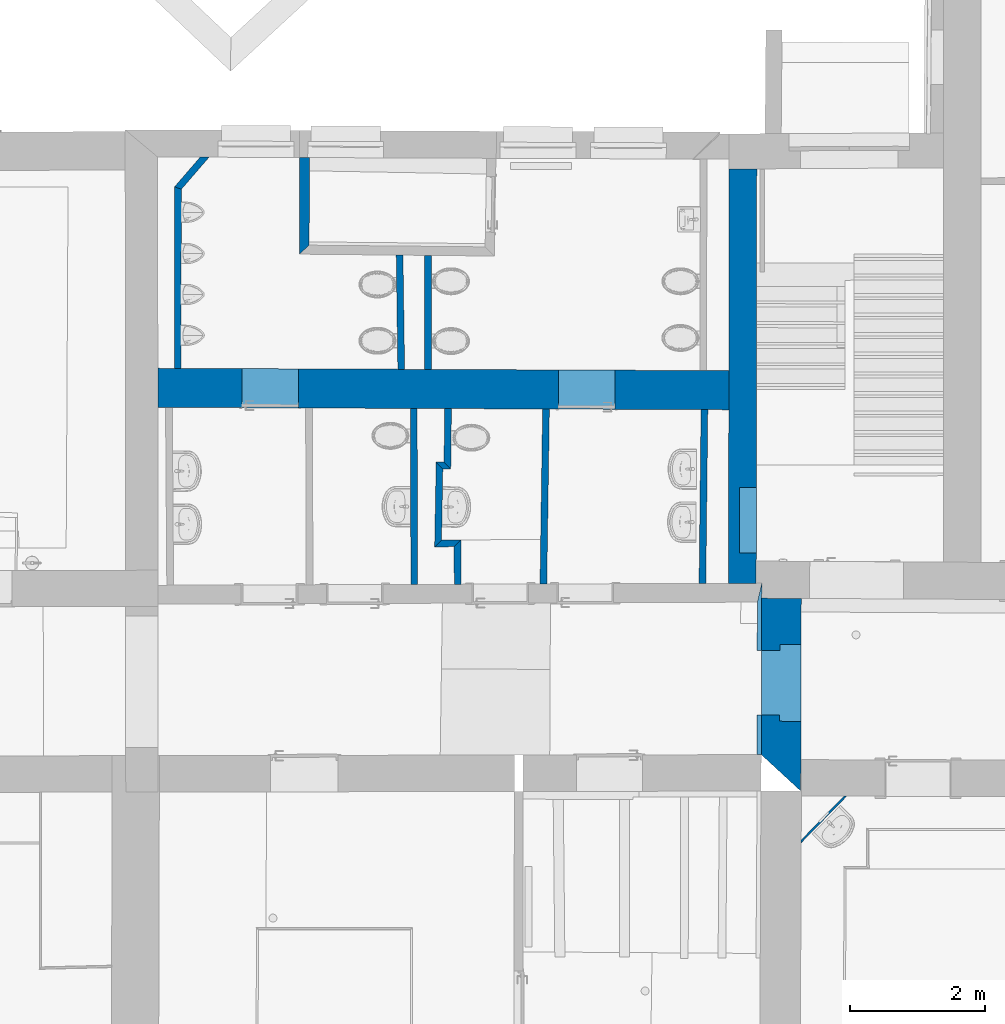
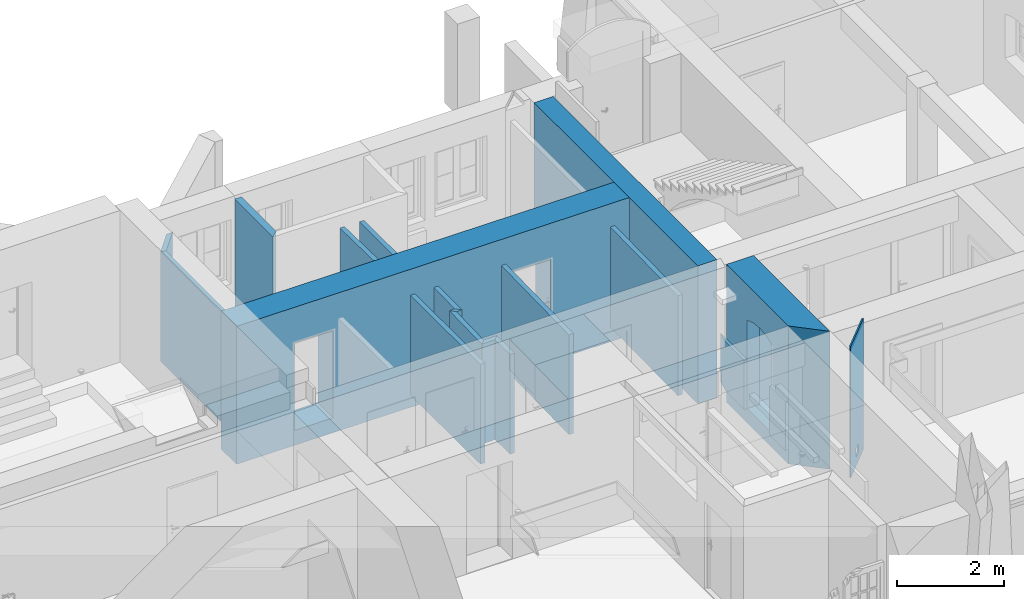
# One storey, part 49 of 196: 19 walls, 5 openings.
"""IFC2X3 building model written with IfcOpenShell, lengths in metres."""

from ifc_helpers import new_model, entity, si_unit, converted_unit, derived_unit, money_unit, direction, frame, origin_with_axes, origin_2d_with_axis, place, context, subcontext, project, spatial, polyline, rectangle, outline, extrude, material, layer, layer_set, layer_usage, type_object, element, save


model = new_model("IFC2X3")

# Units and contexts
model_context = context("Model", 3, precision=1e-05, world=origin_with_axes(), true_north=direction((0.0, 1.0)))
body_context = subcontext(model_context, "Body", "Model", "MODEL_VIEW")
ifc_project = project(units=[si_unit("LENGTHUNIT", "METRE"), si_unit("AREAUNIT", "SQUARE_METRE"), si_unit("VOLUMEUNIT", "CUBIC_METRE"), converted_unit("PLANEANGLEUNIT", "DEGREE", entity("IfcPlaneAngleMeasure", 0.0174532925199), si_unit("PLANEANGLEUNIT", "RADIAN"), dimensions=[0, 0, 0, 0, 0, 0, 0]), money_unit("EUR"), converted_unit("TIMEUNIT", "Year", entity("IfcTimeMeasure", 31556926.0), si_unit("TIMEUNIT", "SECOND"), dimensions=[0, 0, 1, 0, 0, 0, 0]), si_unit("MASSUNIT", "GRAM", prefix="KILO"), si_unit("THERMODYNAMICTEMPERATUREUNIT", "DEGREE_CELSIUS"), si_unit("LUMINOUSINTENSITYUNIT", "LUMEN"), si_unit("ENERGYUNIT", "JOULE", prefix="MEGA"), derived_unit("THERMALCONDUCTANCEUNIT", [(si_unit("POWERUNIT", "WATT"), 1), (si_unit("LENGTHUNIT", "METRE"), -1), (si_unit("THERMODYNAMICTEMPERATUREUNIT", "KELVIN"), -1)]), derived_unit("SPECIFICHEATCAPACITYUNIT", [(si_unit("ENERGYUNIT", "JOULE"), 1), (si_unit("MASSUNIT", "GRAM", prefix="KILO"), -1), (si_unit("THERMODYNAMICTEMPERATUREUNIT", "KELVIN"), -1)]), derived_unit("MASSDENSITYUNIT", [(si_unit("MASSUNIT", "GRAM", prefix="KILO"), 1), (si_unit("VOLUMEUNIT", "CUBIC_METRE"), -1)])], contexts=[model_context])

# Site, building, storey
site_placement = place(None, origin_with_axes())
site = spatial("IfcSite", under=ifc_project, at=site_placement, Name="Gelände", CompositionType="ELEMENT")
building_placement = place(site_placement, origin_with_axes())
building = spatial("IfcBuilding", under=site, at=building_placement, Name="Gebäude", CompositionType="ELEMENT")
storey_placement = place(building_placement, frame((0.0, 0.0, -3.0), z_axis=(0.0, 0.0, 1.0), x_axis=(1.0, 0.0, 0.0)))
storey = spatial("IfcBuildingStorey", under=building, at=storey_placement, Name="KELLERGESCHOSS", CompositionType="ELEMENT", Elevation=-3.0)

# Wall, opening
ifc_material_1 = material(Name="43_Gipskarton")
ifc_layer_1 = layer(ifc_material_1, 0.03, ventilated="UNKNOWN")
ifc_layer_set_1 = layer_set([ifc_layer_1], Name="43_Gipskarton 0.03")
ifc_layer_usage_1 = layer_usage(ifc_layer_set_1, "AXIS2", "NEGATIVE", 0.03)
wall_type_1 = type_object("IfcWallType", Name="43_Gipskarton 30", PredefinedType="ELEMENTEDWALL")
wall_1_placement = place(storey_placement, frame((21.9579376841, 15.0450863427, -0.1), z_axis=(0.0, 0.0, 1.0), x_axis=(0.698403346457, 0.715704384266, 0.0)))
wall_1 = element("IfcWallStandardCase", 1, at=wall_1_placement, inside=storey, type_object=wall_type_1, material=ifc_layer_usage_1, Name="Wand-032", ObjectType="ELEMENTEDWALL", context=body_context, shape_type="SweptSolid", body=[
    extrude(outline(polyline([(0.862844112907, 0.0), (1.82884582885, 0.0), (1.79963821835, 0.03), (0.893848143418, 0.03), (0.862844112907, 0.0)])), origin_with_axes(), (0.0, 0.0, 1.0), 3.0),
])
opening_1_placement = place(wall_1_placement, frame((1.36993878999, 0.0, 0.200269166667), z_axis=(0.0, 0.0, 1.0), x_axis=(1.0, 0.0, 0.0)))
element("IfcOpeningElement", 2, at=opening_1_placement, cuts=wall_1, Name="Tür-022", context=body_context, shape_type="SweptSolid", body=[
    extrude(rectangle(XDim=0.202513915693, YDim=0.194955, at=origin_2d_with_axis()), frame((0.0, -0.03, 0.0974775), z_axis=(0.0, 1.0, 0.0), x_axis=(-1.0, 0.0, 0.0)), (0.0, 0.0, 1.0), 0.09),
])

# Walls
ifc_layer_2 = layer(ifc_material_1, 0.1, ventilated="UNKNOWN")
ifc_layer_set_2 = layer_set([ifc_layer_2], Name="43_Gipskarton 0.1")
ifc_layer_usage_2 = layer_usage(ifc_layer_set_2, "AXIS2", "NEGATIVE", 0.0)
wall_type_2 = type_object("IfcWallType", Name="43_Gipskarton 100", PredefinedType="ELEMENTEDWALL")
wall_2_placement = place(storey_placement, frame((17.2299867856, 20.1492286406, -0.08), z_axis=(0.0, 0.0, 1.0), x_axis=(0.999833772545, 0.0182325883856, 0.0)))
element("IfcWallStandardCase", 3, at=wall_2_placement, inside=storey, type_object=wall_type_2, material=ifc_layer_usage_2, Name="Wand-038", ObjectType="ELEMENTEDWALL", context=body_context, shape_type="SweptSolid", body=[
    extrude(outline(polyline([(-0.103698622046, -0.1), (0.184411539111, -0.1), (0.285624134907, 0.0), (0.0, 0.0), (-0.103698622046, -0.1)])), origin_with_axes(), (0.0, 0.0, 1.0), 2.28),
])
ifc_layer_usage_3 = layer_usage(ifc_layer_set_2, "AXIS2", "NEGATIVE", 0.0)
wall_3_placement = place(storey_placement, frame((17.376892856, 22.0982771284, -0.08), z_axis=(0.0, 0.0, 1.0), x_axis=(-0.0117946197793, -0.999930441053, 0.0)))
element("IfcWallStandardCase", 4, at=wall_3_placement, inside=storey, type_object=wall_type_2, material=ifc_layer_usage_3, Name="Wand-038", ObjectType="ELEMENTEDWALL", context=body_context, shape_type="SweptSolid", body=[
    extrude(outline(polyline([(0.000759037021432, -0.1), (0.795665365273, -0.1), (0.894205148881, 0.0), (0.0, 0.0), (0.000759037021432, -0.1)])), origin_with_axes(), (0.0, 0.0, 1.0), 2.28),
])
ifc_layer_usage_4 = layer_usage(ifc_layer_set_2, "AXIS2", "NEGATIVE", 0.1)
wall_4_placement = place(storey_placement, frame((13.3698996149, 22.1151253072, -0.08), z_axis=(0.0, 0.0, 1.0), x_axis=(0.00119515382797, 0.999999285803, 0.0)))
element("IfcWallStandardCase", 5, at=wall_4_placement, inside=storey, type_object=wall_type_2, material=ifc_layer_usage_4, Name="Wand-038", ObjectType="ELEMENTEDWALL", context=body_context, shape_type="SweptSolid", body=[
    extrude(outline(polyline([(0.580002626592, 0.0), (3.23336696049, 0.0), (3.27050158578, 0.1), (0.58030357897, 0.1), (0.580002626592, 0.0)])), origin_with_axes(), (0.0, 0.0, 1.0), 2.51),
])
ifc_layer_usage_5 = layer_usage(ifc_layer_set_2, "AXIS2", "NEGATIVE", 0.0)
wall_5_placement = place(storey_placement, frame((17.2490522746, 21.2037923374, -0.08), z_axis=(0.0, 0.0, 1.0), x_axis=(-0.0180760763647, -0.999836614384, 0.0)))
element("IfcWallStandardCase", 6, at=wall_5_placement, inside=storey, type_object=wall_type_2, material=ifc_layer_usage_5, Name="Wand-038", ObjectType="ELEMENTEDWALL", context=body_context, shape_type="SweptSolid", body=[
    extrude(outline(polyline([(-0.0979225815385, -0.1), (1.15843464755, -0.1), (1.05473602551, 0.0), (0.0, 0.0), (-0.0979225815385, -0.1)])), origin_with_axes(), (0.0, 0.0, 1.0), 2.28),
])
ifc_layer_usage_6 = layer_usage(ifc_layer_set_2, "AXIS2", "NEGATIVE", 0.0)
wall_6_placement = place(storey_placement, frame((16.5911289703, 22.1015810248, -0.08), z_axis=(0.0, 0.0, 1.0), x_axis=(-0.0143437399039, 0.999897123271, 0.0)))
element("IfcWallStandardCase", 7, at=wall_6_placement, inside=storey, type_object=wall_type_2, material=ifc_layer_usage_6, Name="Wand-038", ObjectType="ELEMENTEDWALL", context=body_context, shape_type="SweptSolid", body=[
    extrude(outline(polyline([(0.57824468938, -0.1), (2.26990214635, -0.1), (2.27230185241, 0.0), (0.580099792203, 0.0), (0.57824468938, -0.1)])), origin_with_axes(), (0.0, 0.0, 1.0), 2.51),
])
ifc_layer_usage_7 = layer_usage(ifc_layer_set_2, "AXIS2", "NEGATIVE", 0.1)
wall_7_placement = place(storey_placement, frame((16.7685349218, 22.1008350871, -0.08), z_axis=(0.0, 0.0, 1.0), x_axis=(0.0028354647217, -0.999995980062, 0.0)))
element("IfcWallStandardCase", 8, at=wall_7_placement, inside=storey, type_object=wall_type_2, material=ifc_layer_usage_7, Name="Wand-038", ObjectType="ELEMENTEDWALL", context=body_context, shape_type="SweptSolid", body=[
    extrude(outline(polyline([(0.0, 0.0), (2.60816153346, 0.0), (2.608105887, 0.1), (0.000704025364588, 0.1), (0.0, 0.0)])), origin_with_axes(), (0.0, 0.0, 1.0), 2.28),
])
ifc_layer_usage_8 = layer_usage(ifc_layer_set_2, "AXIS2", "NEGATIVE", 0.0)
wall_8_placement = place(storey_placement, frame((17.0785329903, 24.3686319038, -0.08), z_axis=(0.0, 0.0, 1.0), x_axis=(0.000928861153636, -0.999999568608, 0.0)))
element("IfcWallStandardCase", 9, at=wall_8_placement, inside=storey, type_object=wall_type_2, material=ifc_layer_usage_8, Name="Wand-038", ObjectType="ELEMENTEDWALL", context=body_context, shape_type="SweptSolid", body=[
    extrude(outline(polyline([(-0.00105774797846, -0.1), (1.68858910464, -0.1), (1.68910246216, 0.0), (0.0, 0.0), (-0.00105774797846, -0.1)])), origin_with_axes(), (0.0, 0.0, 1.0), 2.51),
])
ifc_layer_usage_9 = layer_usage(ifc_layer_set_2, "AXIS2", "NEGATIVE", 0.0)
wall_9_placement = place(storey_placement, frame((21.0438260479, 19.2271588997, -0.02), z_axis=(0.0, 0.0, 1.0), x_axis=(0.0113857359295, 0.999935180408, 0.0)))
element("IfcWallStandardCase", 10, at=wall_9_placement, inside=storey, type_object=wall_type_2, material=ifc_layer_usage_9, Name="Wand-038", ObjectType="ELEMENTEDWALL", context=body_context, shape_type="SweptSolid", body=[
    extrude(outline(polyline([(0.281508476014, -0.1), (2.85646643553, -0.1), (2.85574829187, 0.0), (0.28003057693, 0.0), (0.281508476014, -0.1)])), origin_with_axes(), (0.0, 0.0, 1.0), 2.28),
])
ifc_layer_usage_10 = layer_usage(ifc_layer_set_2, "AXIS2", "NEGATIVE", 0.0)
wall_10_placement = place(storey_placement, frame((17.515563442, 20.1544363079, -0.08), z_axis=(0.0, 0.0, 1.0), x_axis=(0.0061808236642, -0.999980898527, 0.0)))
element("IfcWallStandardCase", 11, at=wall_10_placement, inside=storey, type_object=wall_type_2, material=ifc_layer_usage_10, Name="Wand-039", ObjectType="ELEMENTEDWALL", context=body_context, shape_type="SweptSolid", body=[
    extrude(outline(polyline([(0.101212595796, -0.1), (0.658963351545, -0.1), (0.659242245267, 0.0), (0.0, 0.0), (0.101212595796, -0.1)])), origin_with_axes(), (0.0, 0.0, 1.0), 2.28),
])
ifc_layer_usage_11 = layer_usage(ifc_layer_set_2, "AXIS2", "NEGATIVE", 0.0)
wall_11_placement = place(storey_placement, frame((17.3663460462, 21.2041341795, -0.08), z_axis=(0.0, 0.0, 1.0), x_axis=(-0.999995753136, -0.00291439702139, 0.0)))
element("IfcWallStandardCase", 12, at=wall_11_placement, inside=storey, type_object=wall_type_2, material=ifc_layer_usage_11, Name="Wand-039", ObjectType="ELEMENTEDWALL", context=body_context, shape_type="SweptSolid", body=[
    extrude(outline(polyline([(0.0985397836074, -0.1), (0.215216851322, -0.1), (0.117294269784, 0.0), (0.0, 0.0), (0.0985397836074, -0.1)])), origin_with_axes(), (0.0, 0.0, 1.0), 2.28),
])
ifc_layer_usage_12 = layer_usage(ifc_layer_set_2, "AXIS2", "NEGATIVE", 0.0)
wall_12_placement = place(storey_placement, frame((18.6857088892, 19.2191602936, -0.08), z_axis=(0.0, 0.0, 1.0), x_axis=(0.0148603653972, 0.999889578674, 0.0)))
element("IfcWallStandardCase", 13, at=wall_12_placement, inside=storey, type_object=wall_type_2, material=ifc_layer_usage_12, Name="Wand-039", ObjectType="ELEMENTEDWALL", context=body_context, shape_type="SweptSolid", body=[
    extrude(outline(polyline([(0.281872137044, -0.1), (2.87481709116, -0.1), (2.87375142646, 0.0), (0.280046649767, 0.0), (0.281872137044, -0.1)])), origin_with_axes(), (0.0, 0.0, 1.0), 2.28),
])
ifc_layer_usage_13 = layer_usage(ifc_layer_set_2, "AXIS2", "NEGATIVE", 0.1)
wall_13_placement = place(storey_placement, frame((13.3737639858, 25.3484899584, -0.02), z_axis=(0.0, 0.0, 1.0), x_axis=(0.653593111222, 0.756846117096, 0.0)))
element("IfcWallStandardCase", 14, at=wall_13_placement, inside=storey, type_object=wall_type_2, material=ifc_layer_usage_13, Name="Wand-039", ObjectType="ELEMENTEDWALL", context=body_context, shape_type="SweptSolid", body=[
    extrude(outline(polyline([(0.0, 0.0), (0.629099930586, 0.0), (0.543426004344, 0.1), (-0.0371346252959, 0.1), (0.0, 0.0)])), origin_with_axes(), (0.0, 0.0, 1.0), 2.45),
])

# Wall, opening
ifc_material_2 = material(Name="05_ALLGEMEIN - TRAGENDE BAUTEILE")
ifc_layer_3 = layer(ifc_material_2, 0.41, ventilated="UNKNOWN")
ifc_layer_set_3 = layer_set([ifc_layer_3], Name="05_ALLGEMEIN - TRAGENDE BAUTEILE 0.41")
ifc_layer_usage_14 = layer_usage(ifc_layer_set_3, "AXIS2", "NEGATIVE", 0.41)
wall_type_3 = type_object("IfcWallType", Name="05_ALLGEMEIN - TRAGENDE BAUTEILE 410", PredefinedType="ELEMENTEDWALL")
wall_14_placement = place(storey_placement, frame((21.8935293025, 19.2300410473, -0.36), z_axis=(0.0, 0.0, 1.0), x_axis=(0.00130389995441, 0.999999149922, 0.0)))
wall_14 = element("IfcWallStandardCase", 15, at=wall_14_placement, inside=storey, type_object=wall_type_3, material=ifc_layer_usage_14, Name="Wand-039", ObjectType="ELEMENTEDWALL", context=body_context, shape_type="SweptSolid", body=[
    extrude(outline(polyline([(0.280003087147, 0.0), (6.42152627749, 0.0), (6.41876362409, 0.41), (0.278077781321, 0.41), (0.280003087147, 0.0)])), origin_with_axes(), (0.0, 0.0, 1.0), 3.15),
])
opening_2_placement = place(wall_14_placement, frame((1.21250958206, 0.0, 0.33), z_axis=(0.0, 0.0, 1.0), x_axis=(1.0, 0.0, 0.0)))
element("IfcOpeningElement", 16, at=opening_2_placement, cuts=wall_14, Name="Fenster-020", ObjectType="Recess", context=body_context, shape_type="SweptSolid", body=[
    extrude(outline(polyline([(-0.486642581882, 0.0), (-0.486642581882, -1.99500001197), (-0.331730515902, -2.06163462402), (-0.168079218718, -2.10233078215), (-4.87230322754e-09, -2.11601633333), (0.168079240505, -2.10233078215), (0.331730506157, -2.06163462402), (0.486642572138, -1.99500001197), (0.486643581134, -1.99489999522), (0.486642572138, 0.0), (-0.486642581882, 0.0)])), frame((0.0, 0.246027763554, 0.0), z_axis=(0.0, 1.0, 0.0), x_axis=(1.0, 0.0, 0.0)), (0.0, 0.0, -1.0), 0.656027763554),
])

# Walls
ifc_material_3 = material(Name="01_ALLGEMEIN - BAUTEIL")
ifc_layer_4 = layer(ifc_material_3, 0.065, ventilated="UNKNOWN")
ifc_layer_set_4 = layer_set([ifc_layer_4], Name="01_ALLGEMEIN - BAUTEIL 0.065")
ifc_layer_usage_15 = layer_usage(ifc_layer_set_4, "AXIS2", "POSITIVE", -0.065)
wall_type_4 = type_object("IfcWallType", Name="01_ALLGEMEIN - BAUTEIL 65", PredefinedType="ELEMENTEDWALL")
wall_15_placement = place(storey_placement, frame((21.9038172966, 16.9698331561, -0.0311863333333), z_axis=(0.0, 0.0, 1.0), x_axis=(0.00295806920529, 0.999995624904, 0.0)))
element("IfcWallStandardCase", 17, at=wall_15_placement, inside=storey, type_object=wall_type_4, material=ifc_layer_usage_15, Name="Wand-038", ObjectType="ELEMENTEDWALL", context=body_context, shape_type="SweptSolid", body=[
    extrude(outline(polyline([(0.000297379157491, -0.065), (0.586162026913, -0.065), (0.586162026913, 0.0), (0.0, 0.0), (0.000297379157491, -0.065)])), origin_with_axes(), (0.0, 0.0, 1.0), 1.114215),
])
ifc_layer_usage_16 = layer_usage(ifc_layer_set_4, "AXIS2", "POSITIVE", -0.065)
wall_16_placement = place(storey_placement, frame((21.9083884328, 18.5151371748, -0.0311863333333), z_axis=(0.0, 0.0, 1.0), x_axis=(0.00295806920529, 0.999995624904, 0.0)))
element("IfcWallStandardCase", 18, at=wall_16_placement, inside=storey, type_object=wall_type_4, material=ifc_layer_usage_16, Name="Wand-039", ObjectType="ELEMENTEDWALL", context=body_context, shape_type="SweptSolid", body=[
    extrude(outline(polyline([(0.0, -0.065), (0.995382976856, -0.065), (0.714964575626, 0.0), (0.0, 0.0), (0.0, -0.065)])), origin_with_axes(), (0.0, 0.0, 1.0), 1.114215),
])

# Wall, openings
ifc_layer_5 = layer(ifc_material_2, 0.58, ventilated="UNKNOWN")
ifc_layer_set_5 = layer_set([ifc_layer_5], Name="05_ALLGEMEIN - TRAGENDE BAUTEILE 0.58")
ifc_layer_usage_17 = layer_usage(ifc_layer_set_5, "AXIS2", "NEGATIVE", 0.0)
wall_type_5 = type_object("IfcWallType", Name="05_ALLGEMEIN - TRAGENDE BAUTEILE 580", PredefinedType="ELEMENTEDWALL")
wall_17_placement = place(storey_placement, frame((21.8972444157, 22.0792704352, -0.36), z_axis=(0.0, 0.0, 1.0), x_axis=(-0.999991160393, 0.00420465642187, 0.0)))
wall_17 = element("IfcWallStandardCase", 19, at=wall_17_placement, inside=storey, type_object=wall_type_5, material=ifc_layer_usage_17, Name="Wand-038", ObjectType="ELEMENTEDWALL", context=body_context, shape_type="SweptSolid", body=[
    extrude(outline(polyline([(0.411684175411, -0.58), (8.87482240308, -0.58), (8.87189214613, 0.0), (0.41000172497, 0.0), (0.411684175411, -0.58)])), origin_with_axes(), (0.0, 0.0, 1.0), 3.14999999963),
])
opening_3_placement = place(wall_17_placement, frame((7.20628413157, 0.0, 0.339866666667), z_axis=(0.0, 0.0, 1.0), x_axis=(1.0, 0.0, 0.0)))
element("IfcOpeningElement", 20, at=opening_3_placement, cuts=wall_17, Name="Tür-022", context=body_context, shape_type="SweptSolid", body=[
    extrude(rectangle(XDim=0.83546436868, YDim=1.994988, at=origin_2d_with_axis()), frame((0.0, 0.58, 0.997494), z_axis=(0.0, 1.0, 0.0), x_axis=(-1.0, 0.0, 0.0)), (0.0, 0.0, -1.0), 1.74),
])
opening_4_placement = place(wall_17_placement, frame((2.51604504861, 0.0, 0.3401735), z_axis=(0.0, 0.0, 1.0), x_axis=(1.0, 0.0, 0.0)))
element("IfcOpeningElement", 21, at=opening_4_placement, cuts=wall_17, Name="Tür-022", context=body_context, shape_type="SweptSolid", body=[
    extrude(rectangle(XDim=0.835563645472, YDim=1.991635, at=origin_2d_with_axis()), frame((0.0, 0.58, 0.9958175), z_axis=(0.0, -1.0, 0.0), x_axis=(1.0, 0.0, 0.0)), (0.0, 0.0, 1.0), 1.74),
])

# Wall, opening
ifc_layer_6 = layer(ifc_material_2, 0.585872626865, ventilated="UNKNOWN")
ifc_layer_set_6 = layer_set([ifc_layer_6], Name="05_ALLGEMEIN - TRAGENDE BAUTEILE 0.585873")
ifc_layer_usage_18 = layer_usage(ifc_layer_set_6, "AXIS2", "NEGATIVE", 0.585872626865)
wall_type_6 = type_object("IfcWallType", Name="05_ALLGEMEIN - TRAGENDE BAUTEILE 586", PredefinedType="ELEMENTEDWALL")
wall_18_placement = place(storey_placement, frame((21.9756756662, 19.2882559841, -0.36), z_axis=(0.0, 0.0, 1.0), x_axis=(-0.00295806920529, -0.999995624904, 0.0)))
wall_18 = element("IfcWallStandardCase", 22, at=wall_18_placement, inside=storey, type_object=wall_type_6, material=ifc_layer_usage_18, Name="Wand-039", ObjectType="ELEMENTEDWALL", context=body_context, shape_type="SweptSolid", body=[
    extrude(outline(polyline([(0.0, 0.0), (2.31832786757, 0.0), (2.85565311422, 0.585872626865), (0.00140607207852, 0.585872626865), (0.0, 0.0)])), origin_with_axes(), (0.0, 0.0, 1.0), 3.15),
])
opening_5_placement = place(wall_18_placement, frame((1.25288884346, 0.0, 0.328813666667), z_axis=(0.0, 0.0, 1.0), x_axis=(1.0, 0.0, 0.0)))
element("IfcOpeningElement", 23, at=opening_5_placement, cuts=wall_18, Name="Tür-022", context=body_context, shape_type="SweptSolid", body=[
    extrude(outline(polyline([(0.569574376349, 0.0), (0.569574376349, 2.06798892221), (0.293617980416, 2.17464640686), (0.0, 2.21092633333), (-0.293617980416, 2.17464640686), (-0.569574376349, 2.06798892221), (-0.569574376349, 0.0), (0.569574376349, 0.0)])), frame((0.0, 0.27, 0.0), z_axis=(0.0, -1.0, 0.0), x_axis=(1.0, 0.0, 0.0)), (0.0, 0.0, -1.0), 0.90174525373),
    extrude(outline(polyline([(-0.479574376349, 0.0), (-0.479574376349, -2.01265933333), (-0.245821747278, -2.09352323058), (0.0, -2.12092633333), (0.245821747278, -2.09352323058), (0.479574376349, -2.01265933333), (0.479574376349, 0.0), (-0.479574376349, 0.0)])), frame((0.0, 0.27, 0.0), z_axis=(0.0, 1.0, 0.0), x_axis=(1.0, 0.0, 0.0)), (0.0, 0.0, -1.0), 0.855872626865),
])

# Wall
ifc_material_4 = material(Name="59_MW Kalksandstein-600")
ifc_layer_7 = layer(ifc_material_4, 0.145295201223, ventilated="UNKNOWN")
ifc_layer_set_7 = layer_set([ifc_layer_7], Name="59_MW Kalksandstein-600 0.145295")
ifc_layer_usage_19 = layer_usage(ifc_layer_set_7, "AXIS2", "NEGATIVE", 0.0)
wall_type_7 = type_object("IfcWallType", Name="59_MW Kalksandstein-600 145", PredefinedType="ELEMENTEDWALL")
wall_19_placement = place(storey_placement, frame((15.123674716, 24.3874933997, -1.0), z_axis=(0.0, 0.0, 1.0), x_axis=(0.00151670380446, 0.999998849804, 0.0)))
element("IfcWallStandardCase", 24, at=wall_19_placement, inside=storey, type_object=wall_type_7, material=ifc_layer_usage_19, Name="Wand-040", ObjectType="ELEMENTEDWALL", context=body_context, shape_type="SweptSolid", body=[
    extrude(outline(polyline([(0.13328234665, -0.145295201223), (1.43151158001, -0.145295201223), (1.43186202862, 0.0), (0.0, 0.0), (0.13328234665, -0.145295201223)])), origin_with_axes(), (0.0, 0.0, 1.0), 3.72),
])

save(model, "model.ifc")
